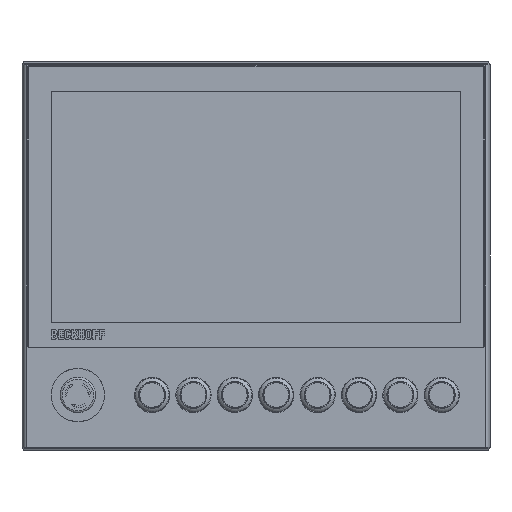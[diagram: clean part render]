
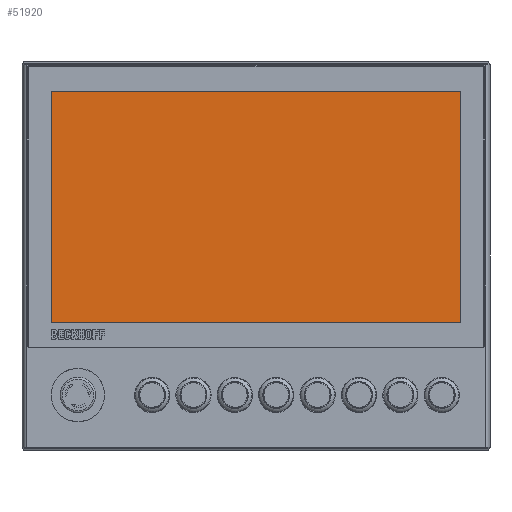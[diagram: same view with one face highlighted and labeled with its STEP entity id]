
A CAD part, top view. The second image highlights one B-rep face of the part: STEP entity #51920.
In plain terms, the highlighted planar face has unit normal (0, 0, 1).
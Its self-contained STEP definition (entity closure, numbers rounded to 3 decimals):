
#4874=LINE('',#84247,#9453);
#4875=LINE('',#84249,#9454);
#4876=LINE('',#84251,#9455);
#4877=LINE('',#84252,#9456);
#9453=VECTOR('',#69415,10.);
#9454=VECTOR('',#69416,10.);
#9455=VECTOR('',#69417,10.);
#9456=VECTOR('',#69418,10.);
#13494=FACE_OUTER_BOUND('',#16675,.T.);
#16675=EDGE_LOOP('',(#41963,#41964,#41965,#41966));
#22957=VERTEX_POINT('',#84245);
#22958=VERTEX_POINT('',#84246);
#22959=VERTEX_POINT('',#84248);
#22960=VERTEX_POINT('',#84250);
#29541=EDGE_CURVE('',#22957,#22958,#4874,.T.);
#29542=EDGE_CURVE('',#22958,#22959,#4875,.T.);
#29543=EDGE_CURVE('',#22959,#22960,#4876,.T.);
#29544=EDGE_CURVE('',#22960,#22957,#4877,.T.);
#41963=ORIENTED_EDGE('',*,*,#29541,.T.);
#41964=ORIENTED_EDGE('',*,*,#29542,.T.);
#41965=ORIENTED_EDGE('',*,*,#29543,.T.);
#41966=ORIENTED_EDGE('',*,*,#29544,.T.);
#46442=PLANE('',#56541);
#51920=ADVANCED_FACE('',(#13494),#46442,.T.);
#56541=AXIS2_PLACEMENT_3D('',#84244,#69413,#69414);
#69413=DIRECTION('center_axis',(0.,0.,
1.));
#69414=DIRECTION('ref_axis',(1.,0.,0.));
#69415=DIRECTION('',(0.,1.,0.));
#69416=DIRECTION('',(-1.,0.,0.));
#69417=DIRECTION('',(0.,-1.,0.));
#69418=DIRECTION('',(1.,0.,0.));
#84244=CARTESIAN_POINT('Origin',(0.,41.65,
-0.2));
#84245=CARTESIAN_POINT('',(173.,-56.1,-0.2));
#84246=CARTESIAN_POINT('',(173.,139.4,-0.2));
#84247=CARTESIAN_POINT('',(173.,90.525,-0.2));
#84248=CARTESIAN_POINT('',(-173.,139.4,-0.2));
#84249=CARTESIAN_POINT('',(-86.5,139.4,-0.2));
#84250=CARTESIAN_POINT('',(-173.,-56.1,-0.2));
#84251=CARTESIAN_POINT('',(-173.,-7.225,-0.2));
#84252=CARTESIAN_POINT('',(86.5,-56.1,-0.2));
